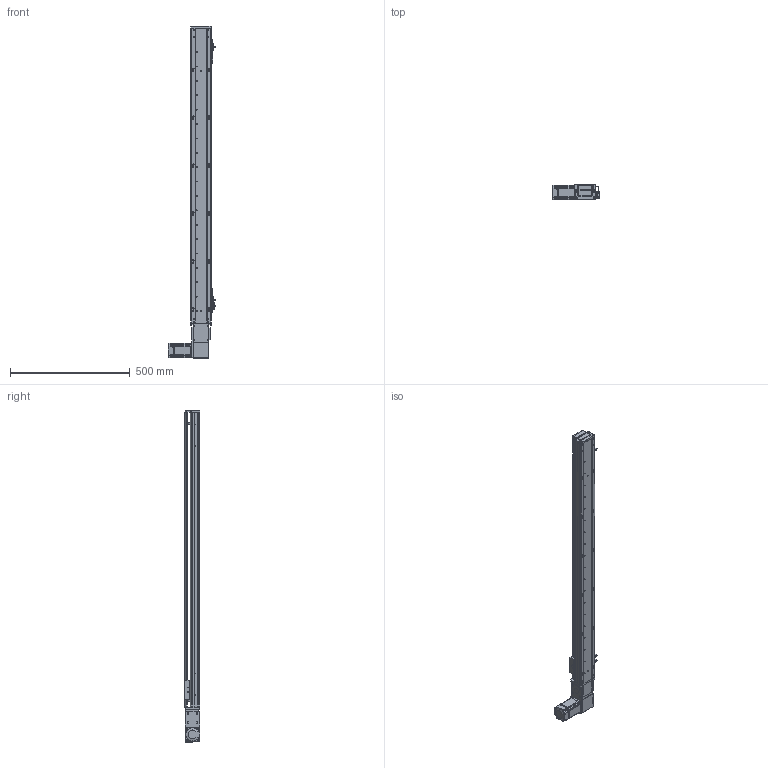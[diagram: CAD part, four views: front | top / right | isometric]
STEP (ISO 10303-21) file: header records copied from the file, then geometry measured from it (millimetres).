
FILE_DESCRIPTION (( 'STEP AP203' ), '1' );
FILE_NAME ('RY80-T-300-LK.SLDASM_1050.step', '2021-03-01T01:59:01', ( '盈信电脑' ), ( '东莞市道滘镇水果街19号' ), 'SwSTEP 2.0', 'SolidWorks 2012', '' );
FILE_SCHEMA (( 'CONFIG_CONTROL_DESIGN' ));
Products named in the file (19): RY80-T-300-LK.SLDASM_1050; RY80-T-M4蹟翐; RY80-T肮祭謫俋欶; RY80-T萇儂假蚾啣; 侂狟200W萇儂; RY80-T粣創揤踡輸; 1; RY80-T翋肮祭謫裔啣; 滅袉蝶18-10; RY80-T肮祭湍揤輸1; RY80俋离覜茼え; RY80-T肮祭湍揤輸2; RY80-T-翋肮祭謫釱; RY80-T綴裔啣; 672嫖萇羲壽假蚾釱; 覜茼ん672; RY80-T-300-LK倰第奻裔啣_1050; RY80-T-300-LK倰第菁釱_1050; RY80-T肮祭謫臏賑輸
Assembly tree (24 placements, depth 3):
  RY80-T-300-LK.SLDASM_1050
    RY80-T-300-LK倰第菁釱_1050
    RY80-T肮祭謫臏賑輸
    RY80-T-300-LK倰第奻裔啣_1050
    RY80-T綴裔啣
    672嫖萇羲壽假蚾釱  x2
    覜茼ん672  x3
    RY80俋离覜茼え
    RY80-T-翋肮祭謫釱
    RY80-T肮祭湍揤輸1
    RY80-T肮祭湍揤輸2
    RY80-T粣創揤踡輸
    RY80-T翋肮祭謫裔啣  x2
    滅袉蝶18-10  x2
    侂狟200W萇儂
      1
    RY80-T肮祭謫俋欶
    RY80-T萇儂假蚾啣
    RY80-T-M4蹟翐  x2
Bounding box: 198.7 x 65 x 1385 mm (x, y, z)
Volume: 2245861.9 mm3; surface area: 936307.6 mm2
Topology: 23 solids, 23 shells, 2424 faces, 6680 edges, 4339 vertices
Faces by surface type: plane 1309, cylinder 911, cone 148, bspline 56
Entity records: 75763 total; most frequent: CARTESIAN_POINT 18119, ORIENTED_EDGE 11804, DIRECTION 11146, EDGE_CURVE 5902, VERTEX_POINT 3880, AXIS2_PLACEMENT_3D 3739, LINE 3668, VECTOR 3668
